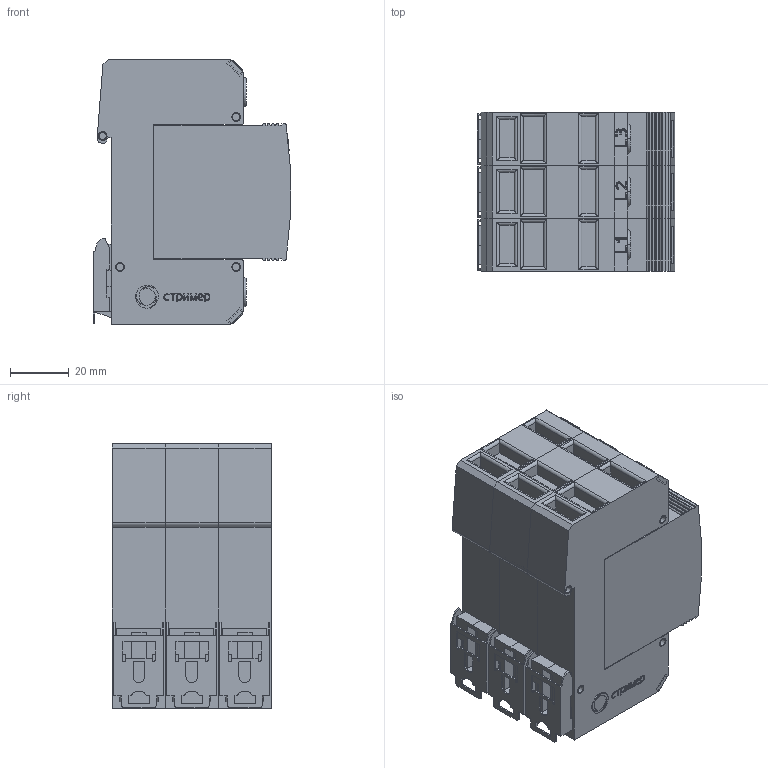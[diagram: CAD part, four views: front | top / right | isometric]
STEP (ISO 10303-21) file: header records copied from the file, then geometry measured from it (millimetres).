
FILE_DESCRIPTION(('TFLEX Exchange Step'),'2;1');
FILE_NAME('X2\041004400442\X0\.113_002.stp', '2022-07-15T15:57:40+03:00',('Pavel Oborin'),('Unknown organisation'),'TFLEX Exchange 2019.2','T-FLEX CAD','Unknown authorisation');
FILE_SCHEMA( ('AUTOMOTIVE_DESIGN { 1 0 10303 214 1 1 1 1 }') );
Length unit declared in the file: millimetre
Products named in the file (23): 0; Буква L3; Буква L2; Буква L1; Буква PEN:12; Буква PEN:11; Буква PEN:10; Буква PEN:9; Планка:3; ВНЕШНИЙ МОДУЛЬ 18 без ушек:3; Корпус 18 без ушей:36; Корпус 18 без ушей:35; Корпус 18 без ушей:34; Корпус 18 без ушей:33; Корпус 18 без ушей:32; Корпус 18 без ушей:31; Корпус 18 без ушей:30; Корпус 18 без ушей:29; Корпус 18 без ушей:28; Корпус 18 без ушей:27; Корпус 18 без ушей:26; Корпус 18 без ушей:25; Арт.113_002
Assembly tree (58 placements, depth 2):
  Арт.113_002
    0
    Буква L3
    Буква L2
    Буква L1
    Буква PEN:12  x3
    Буква PEN:11  x3
    Буква PEN:10  x3
    Буква PEN:9  x3
    Планка:3  x3
    ВНЕШНИЙ МОДУЛЬ 18 без ушек:3  x3
    Корпус 18 без ушей:36  x3
    Корпус 18 без ушей:35  x3
    Корпус 18 без ушей:34  x3
    Корпус 18 без ушей:33  x3
    Корпус 18 без ушей:32  x3
    Корпус 18 без ушей:31  x3
    Корпус 18 без ушей:30  x3
    Корпус 18 без ушей:29  x3
    Корпус 18 без ушей:28  x3
    Корпус 18 без ушей:27  x3
    Корпус 18 без ушей:26  x3
    Корпус 18 без ушей:25  x3
Bounding box: 66.98 x 54.1 x 90.13 mm (x, y, z)
Volume: 258429.6 mm3; surface area: 72509.2 mm2
Topology: 96 solids, 96 shells, 1684 faces, 4114 edges, 2649 vertices
Faces by surface type: plane 982, cylinder 403, bspline 287, torus 12
Entity records: 36572 total; most frequent: CARTESIAN_POINT 19628, ORIENTED_EDGE 3492, DIRECTION 3072, EDGE_CURVE 1746, VECTOR 1166, LINE 1166, VERTEX_POINT 1115, AXIS2_PLACEMENT_3D 953
